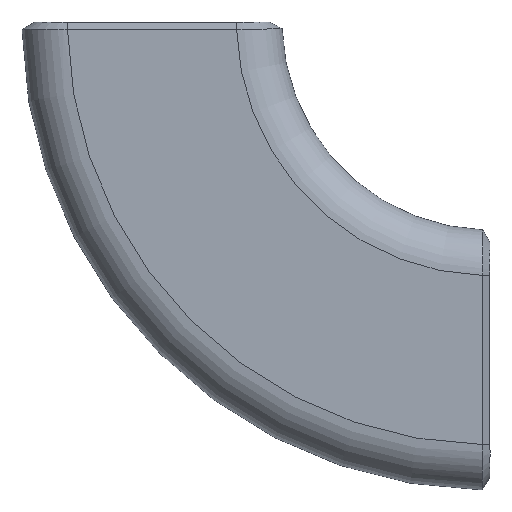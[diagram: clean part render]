
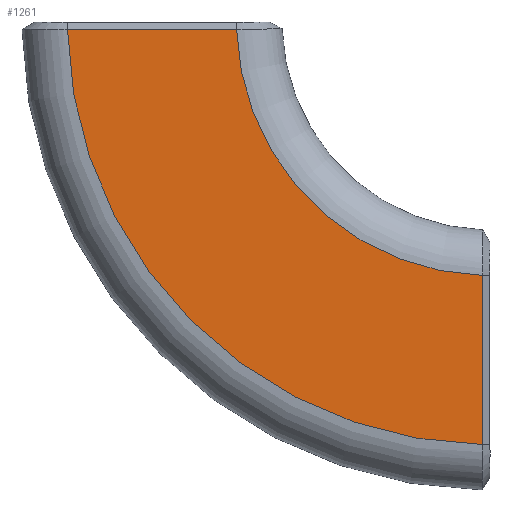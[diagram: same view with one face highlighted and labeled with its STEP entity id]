
A CAD part, left-side view. The second image highlights one B-rep face of the part: STEP entity #1261.
In plain terms, the highlighted planar face has unit normal (-1, 0, 0).
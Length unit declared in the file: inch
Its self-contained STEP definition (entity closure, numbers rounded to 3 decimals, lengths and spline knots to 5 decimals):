
#305=CARTESIAN_POINT('',(-0.625,-1.58892,-2.03093));
#306=VERTEX_POINT('',#305);
#365=CARTESIAN_POINT('',(-0.625,-1.58892,-1.21822));
#366=VERTEX_POINT('',#365);
#374=CARTESIAN_POINT('',(-0.625,-1.58892,-1.21822));
#375=CARTESIAN_POINT('',(-0.625,-1.58892,-1.48846));
#376=CARTESIAN_POINT('',(-0.625,-1.58892,-1.76071));
#377=CARTESIAN_POINT('',(-0.625,-1.58892,-2.03093));
#378=B_SPLINE_CURVE_WITH_KNOTS('',3,(#374,#375,#376,#377),.UNSPECIFIED.,.F.,.U.,(4,4),(-7.37643,-5.31259),.UNSPECIFIED.);
#379=EDGE_CURVE('',#366,#306,#378,.T.);
#559=CARTESIAN_POINT('',(-0.625,-0.40675,-0.03493));
#560=VERTEX_POINT('',#559);
#577=CARTESIAN_POINT('',(-0.625,-1.625,0.0));
#578=DIRECTION('',(-1.0,0.0,0.0));
#579=DIRECTION('',(0.0,1.0,0.0));
#580=AXIS2_PLACEMENT_3D('',#577,#578,#579);
#581=CIRCLE('',#580,1.21875);
#582=EDGE_CURVE('',#560,#366,#581,.T.);
#873=CARTESIAN_POINT('',(-0.625,0.40595,-0.03493));
#874=VERTEX_POINT('',#873);
#954=CARTESIAN_POINT('',(-0.625,0.40595,-0.03493));
#955=CARTESIAN_POINT('',(-0.625,0.13574,-0.03493));
#956=CARTESIAN_POINT('',(-0.625,-0.13651,-0.03493));
#957=CARTESIAN_POINT('',(-0.625,-0.40675,-0.03493));
#958=B_SPLINE_CURVE_WITH_KNOTS('',3,(#954,#955,#956,#957),.UNSPECIFIED.,.F.,.U.,(4,4),(2.68794,4.75174),.UNSPECIFIED.);
#959=EDGE_CURVE('',#874,#560,#958,.T.);
#1244=CARTESIAN_POINT('',(-0.625,0.0,0.0));
#1245=DIRECTION('',(-1.0,0.0,0.0));
#1246=DIRECTION('',(0.0,0.0,1.0));
#1247=AXIS2_PLACEMENT_3D('',#1244,#1245,#1246);
#1248=PLANE('',#1247);
#1249=ORIENTED_EDGE('',*,*,#379,.F.);
#1250=ORIENTED_EDGE('',*,*,#582,.F.);
#1251=ORIENTED_EDGE('',*,*,#959,.F.);
#1252=CARTESIAN_POINT('',(-0.625,-1.625,0.0));
#1253=DIRECTION('',(-1.0,0.0,0.0));
#1254=DIRECTION('',(0.0,1.0,0.0));
#1255=AXIS2_PLACEMENT_3D('',#1252,#1253,#1254);
#1256=CIRCLE('',#1255,2.03125);
#1257=EDGE_CURVE('',#874,#306,#1256,.T.);
#1258=ORIENTED_EDGE('',*,*,#1257,.T.);
#1259=EDGE_LOOP('',(#1249,#1250,#1251,#1258));
#1260=FACE_OUTER_BOUND('',#1259,.T.);
#1261=ADVANCED_FACE('',(#1260),#1248,.T.);
